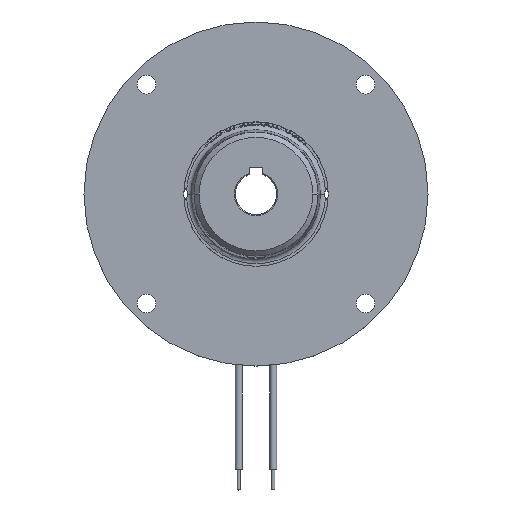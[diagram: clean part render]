
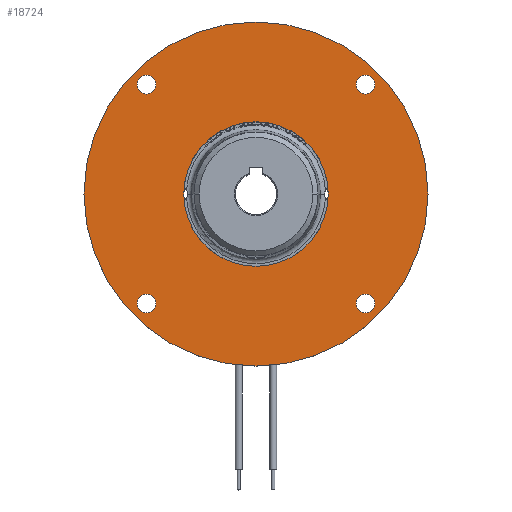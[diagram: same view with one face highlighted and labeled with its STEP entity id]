
A CAD part, top view. The second image highlights one B-rep face of the part: STEP entity #18724.
In plain terms, the highlighted planar face has unit normal (0, 0, 1).
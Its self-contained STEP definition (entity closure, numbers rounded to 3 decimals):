
#37 = CARTESIAN_POINT ( 'NONE',  ( 31.82, -31.82, 0. ) ) ;
#539 = EDGE_CURVE ( 'NONE', #10043, #18440, #5904, .T. ) ;
#579 = CARTESIAN_POINT ( 'NONE',  ( -29.07, 31.82, 0. ) ) ;
#895 = VERTEX_POINT ( 'NONE', #5190 ) ;
#1370 = CARTESIAN_POINT ( 'NONE',  ( 31.82, -31.82, 0. ) ) ;
#1706 = CARTESIAN_POINT ( 'NONE',  ( -34.57, -31.82, 0. ) ) ;
#1713 = DIRECTION ( 'NONE',  ( 0., 0., -1. ) ) ;
#1828 = DIRECTION ( 'NONE',  ( 0., 0., -1. ) ) ;
#1937 = CARTESIAN_POINT ( 'NONE',  ( 50., 0., 0. ) ) ;
#2120 = FACE_BOUND ( 'NONE', #5491, .T. ) ;
#2195 = VERTEX_POINT ( 'NONE', #12178 ) ;
#2457 = FACE_BOUND ( 'NONE', #4346, .T. ) ;
#3652 = EDGE_CURVE ( 'NONE', #6947, #14111, #7374, .T. ) ;
#3758 = AXIS2_PLACEMENT_3D ( 'NONE', #17851, #1828, #3886 ) ;
#3863 = CARTESIAN_POINT ( 'NONE',  ( 0., 50., 0. ) ) ;
#3886 = DIRECTION ( 'NONE',  ( -1., 0., 0. ) ) ;
#4153 = AXIS2_PLACEMENT_3D ( 'NONE', #13876, #8523, #12463 ) ;
#4345 = CARTESIAN_POINT ( 'NONE',  ( 0., 0., 0. ) ) ;
#4346 = EDGE_LOOP ( 'NONE', ( #12621, #21829 ) ) ;
#4417 = CARTESIAN_POINT ( 'NONE',  ( 21., 0., 0. ) ) ;
#4553 = AXIS2_PLACEMENT_3D ( 'NONE', #4345, #13033, #11514 ) ;
#4825 = VERTEX_POINT ( 'NONE', #4417 ) ;
#5064 = DIRECTION ( 'NONE',  ( 0., 0., -1. ) ) ;
#5190 = CARTESIAN_POINT ( 'NONE',  ( 29.07, 31.82, 0. ) ) ;
#5491 = EDGE_LOOP ( 'NONE', ( #21280, #11932 ) ) ;
#5602 = VERTEX_POINT ( 'NONE', #22517 ) ;
#5689 = ORIENTED_EDGE ( 'NONE', *, *, #15527, .F. ) ;
#5704 = FACE_BOUND ( 'NONE', #14794, .T. ) ;
#5904 = CIRCLE ( 'NONE', #16599, 50. ) ;
#5982 = AXIS2_PLACEMENT_3D ( 'NONE', #37, #14038, #11107 ) ;
#6106 = VERTEX_POINT ( 'NONE', #8294 ) ;
#6510 = AXIS2_PLACEMENT_3D ( 'NONE', #21487, #14598, #21597 ) ;
#6676 = AXIS2_PLACEMENT_3D ( 'NONE', #17710, #15990, #9389 ) ;
#6680 = CIRCLE ( 'NONE', #15886, 2.75 ) ;
#6947 = VERTEX_POINT ( 'NONE', #1706 ) ;
#7271 = CIRCLE ( 'NONE', #6510, 21. ) ;
#7364 = EDGE_CURVE ( 'NONE', #12747, #5602, #10165, .T. ) ;
#7374 = CIRCLE ( 'NONE', #16206, 2.75 ) ;
#7655 = ORIENTED_EDGE ( 'NONE', *, *, #539, .F. ) ;
#7726 = EDGE_CURVE ( 'NONE', #16499, #6106, #18261, .T. ) ;
#7768 = EDGE_LOOP ( 'NONE', ( #22078, #13393 ) ) ;
#8158 = CARTESIAN_POINT ( 'NONE',  ( 0., 0., 0. ) ) ;
#8159 = DIRECTION ( 'NONE',  ( -1., 0., 0. ) ) ;
#8210 = CIRCLE ( 'NONE', #4153, 2.75 ) ;
#8294 = CARTESIAN_POINT ( 'NONE',  ( 34.57, -31.82, 0. ) ) ;
#8417 = CARTESIAN_POINT ( 'NONE',  ( 29.07, -31.82, 0. ) ) ;
#8523 = DIRECTION ( 'NONE',  ( 0., 0., -1. ) ) ;
#8582 = CIRCLE ( 'NONE', #5982, 2.75 ) ;
#8740 = DIRECTION ( 'NONE',  ( -1., 0., 0. ) ) ;
#9251 = ORIENTED_EDGE ( 'NONE', *, *, #3652, .T. ) ;
#9279 = DIRECTION ( 'NONE',  ( 0., 0., -1. ) ) ;
#9360 = EDGE_CURVE ( 'NONE', #17056, #4825, #7271, .T. ) ;
#9389 = DIRECTION ( 'NONE',  ( -1., 0., 0. ) ) ;
#10043 = VERTEX_POINT ( 'NONE', #17178 ) ;
#10165 = CIRCLE ( 'NONE', #13104, 2.75 ) ;
#10257 = DIRECTION ( 'NONE',  ( 0., 0., -1. ) ) ;
#11107 = DIRECTION ( 'NONE',  ( -1., 0., 0. ) ) ;
#11514 = DIRECTION ( 'NONE',  ( -1., 0., 0. ) ) ;
#11539 = EDGE_CURVE ( 'NONE', #2195, #895, #13750, .T. ) ;
#11932 = ORIENTED_EDGE ( 'NONE', *, *, #22105, .T. ) ;
#12178 = CARTESIAN_POINT ( 'NONE',  ( 34.57, 31.82, 0. ) ) ;
#12463 = DIRECTION ( 'NONE',  ( -1., 0., 0. ) ) ;
#12621 = ORIENTED_EDGE ( 'NONE', *, *, #14342, .T. ) ;
#12747 = VERTEX_POINT ( 'NONE', #579 ) ;
#12769 = FACE_BOUND ( 'NONE', #7768, .T. ) ;
#12948 = CIRCLE ( 'NONE', #6676, 2.75 ) ;
#12998 = FACE_BOUND ( 'NONE', #17483, .T. ) ;
#13033 = DIRECTION ( 'NONE',  ( 0., 0., -1. ) ) ;
#13104 = AXIS2_PLACEMENT_3D ( 'NONE', #14922, #21926, #18484 ) ;
#13393 = ORIENTED_EDGE ( 'NONE', *, *, #7364, .T. ) ;
#13409 = AXIS2_PLACEMENT_3D ( 'NONE', #3863, #9279, #14496 ) ;
#13542 = EDGE_LOOP ( 'NONE', ( #7655, #5689 ) ) ;
#13750 = CIRCLE ( 'NONE', #3758, 2.75 ) ;
#13876 = CARTESIAN_POINT ( 'NONE',  ( -31.82, -31.82, 0. ) ) ;
#14038 = DIRECTION ( 'NONE',  ( 0., 0., -1. ) ) ;
#14111 = VERTEX_POINT ( 'NONE', #14522 ) ;
#14342 = EDGE_CURVE ( 'NONE', #895, #2195, #12948, .T. ) ;
#14496 = DIRECTION ( 'NONE',  ( -1., 0., 0. ) ) ;
#14513 = CIRCLE ( 'NONE', #4553, 50. ) ;
#14522 = CARTESIAN_POINT ( 'NONE',  ( -29.07, -31.82, 0. ) ) ;
#14598 = DIRECTION ( 'NONE',  ( 0., 0., -1. ) ) ;
#14794 = EDGE_LOOP ( 'NONE', ( #16865, #18184 ) ) ;
#14922 = CARTESIAN_POINT ( 'NONE',  ( -31.82, 31.82, 0. ) ) ;
#15281 = DIRECTION ( 'NONE',  ( -1., 0., 0. ) ) ;
#15527 = EDGE_CURVE ( 'NONE', #18440, #10043, #14513, .T. ) ;
#15754 = ORIENTED_EDGE ( 'NONE', *, *, #18402, .T. ) ;
#15886 = AXIS2_PLACEMENT_3D ( 'NONE', #20956, #1713, #8740 ) ;
#15990 = DIRECTION ( 'NONE',  ( 0., 0., -1. ) ) ;
#16096 = PLANE ( 'NONE',  #13409 ) ;
#16206 = AXIS2_PLACEMENT_3D ( 'NONE', #18543, #10257, #17277 ) ;
#16470 = DIRECTION ( 'NONE',  ( -1., 0., 0. ) ) ;
#16499 = VERTEX_POINT ( 'NONE', #8417 ) ;
#16538 = FACE_OUTER_BOUND ( 'NONE', #13542, .T. ) ;
#16599 = AXIS2_PLACEMENT_3D ( 'NONE', #22404, #20913, #15281 ) ;
#16865 = ORIENTED_EDGE ( 'NONE', *, *, #7726, .T. ) ;
#17056 = VERTEX_POINT ( 'NONE', #18146 ) ;
#17178 = CARTESIAN_POINT ( 'NONE',  ( -50., 0., 0. ) ) ;
#17277 = DIRECTION ( 'NONE',  ( -1., 0., 0. ) ) ;
#17483 = EDGE_LOOP ( 'NONE', ( #9251, #15754 ) ) ;
#17710 = CARTESIAN_POINT ( 'NONE',  ( 31.82, 31.82, 0. ) ) ;
#17829 = EDGE_CURVE ( 'NONE', #5602, #12747, #6680, .T. ) ;
#17851 = CARTESIAN_POINT ( 'NONE',  ( 31.82, 31.82, 0. ) ) ;
#18146 = CARTESIAN_POINT ( 'NONE',  ( -21., 0., 0. ) ) ;
#18184 = ORIENTED_EDGE ( 'NONE', *, *, #20050, .T. ) ;
#18261 = CIRCLE ( 'NONE', #21562, 2.75 ) ;
#18402 = EDGE_CURVE ( 'NONE', #14111, #6947, #8210, .T. ) ;
#18440 = VERTEX_POINT ( 'NONE', #1937 ) ;
#18484 = DIRECTION ( 'NONE',  ( -1., 0., 0. ) ) ;
#18543 = CARTESIAN_POINT ( 'NONE',  ( -31.82, -31.82, 0. ) ) ;
#18724 = ADVANCED_FACE ( 'NONE', ( #2457, #5704, #12998, #12769, #16538, #2120 ), #16096, .F. ) ;
#19613 = CIRCLE ( 'NONE', #22549, 21. ) ;
#20050 = EDGE_CURVE ( 'NONE', #6106, #16499, #8582, .T. ) ;
#20913 = DIRECTION ( 'NONE',  ( 0., 0., -1. ) ) ;
#20956 = CARTESIAN_POINT ( 'NONE',  ( -31.82, 31.82, 0. ) ) ;
#21280 = ORIENTED_EDGE ( 'NONE', *, *, #9360, .T. ) ;
#21487 = CARTESIAN_POINT ( 'NONE',  ( 0., 0., 0. ) ) ;
#21562 = AXIS2_PLACEMENT_3D ( 'NONE', #1370, #5064, #8159 ) ;
#21597 = DIRECTION ( 'NONE',  ( -1., 0., 0. ) ) ;
#21829 = ORIENTED_EDGE ( 'NONE', *, *, #11539, .T. ) ;
#21926 = DIRECTION ( 'NONE',  ( 0., 0., -1. ) ) ;
#22078 = ORIENTED_EDGE ( 'NONE', *, *, #17829, .T. ) ;
#22105 = EDGE_CURVE ( 'NONE', #4825, #17056, #19613, .T. ) ;
#22223 = DIRECTION ( 'NONE',  ( 0., 0., -1. ) ) ;
#22404 = CARTESIAN_POINT ( 'NONE',  ( 0., 0., 0. ) ) ;
#22517 = CARTESIAN_POINT ( 'NONE',  ( -34.57, 31.82, 0. ) ) ;
#22549 = AXIS2_PLACEMENT_3D ( 'NONE', #8158, #22223, #16470 ) ;
